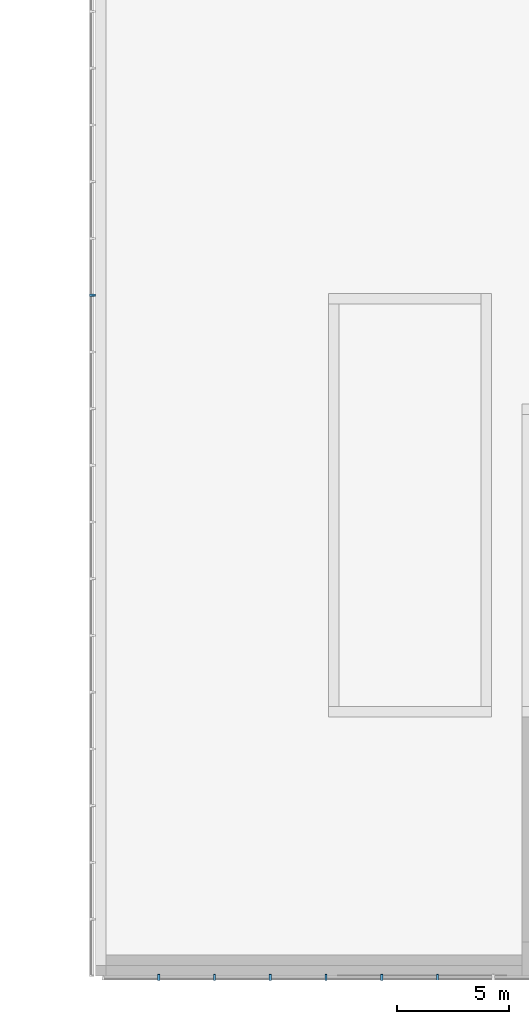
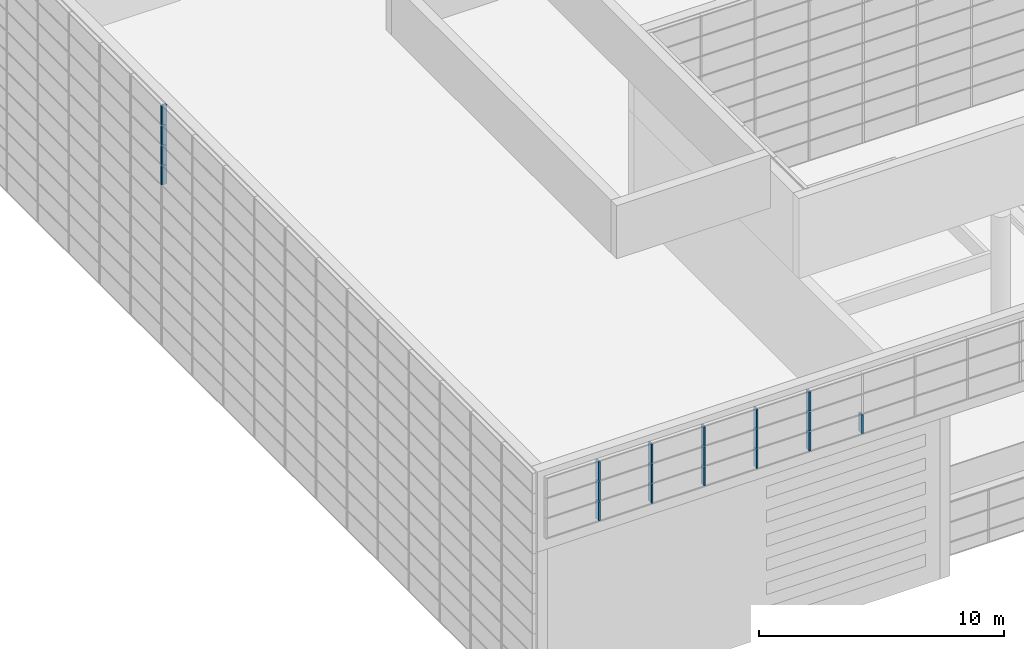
# One storey, part 74 of 105: 20 building element parts, 3 elements without a shape of their own.
"""IFC4 building model written with IfcOpenShell, lengths in millimetres."""

from ifc_helpers import new_model, entity, si_unit, converted_unit, derived_unit, direction, frame, origin_with_axes, place, context, subcontext, project, spatial, triangles, material, element, aggregate, save


model = new_model("IFC4")

# Units and contexts
model_context = context("Model", 3, precision=1e-05, world=origin_with_axes(), true_north=direction((0.0, 1.0)))
body_context = subcontext(model_context, "Body", "Model", "MODEL_VIEW")
ifc_project = project(units=[si_unit("LENGTHUNIT", "METRE", prefix="MILLI"), si_unit("AREAUNIT", "SQUARE_METRE"), si_unit("VOLUMEUNIT", "CUBIC_METRE"), converted_unit("PLANEANGLEUNIT", "DEGREE", entity("IfcLengthMeasure", 0.017453), si_unit("PLANEANGLEUNIT", "RADIAN"), dimensions=[0, 0, 0, 0, 0, 0, 0]), si_unit("SOLIDANGLEUNIT", "STERADIAN"), si_unit("MASSUNIT", "GRAM"), si_unit("TIMEUNIT", "SECOND"), si_unit("THERMODYNAMICTEMPERATUREUNIT", "DEGREE_CELSIUS"), si_unit("LUMINOUSINTENSITYUNIT", "LUMEN"), si_unit("POWERUNIT", "WATT"), derived_unit("THERMALTRANSMITTANCEUNIT", [(si_unit("POWERUNIT", "WATT"), 1), (si_unit("THERMODYNAMICTEMPERATUREUNIT", "KELVIN"), -1), (si_unit("AREAUNIT", "SQUARE_METRE"), -1)])], contexts=[model_context])

# Site, building, storey
site_placement = place(None, origin_with_axes())
site = spatial("IfcSite", under=ifc_project, at=site_placement, Name="Default Site", CompositionType="ELEMENT")
building_placement = place(site_placement, origin_with_axes())
building = spatial("IfcBuilding", under=site, at=building_placement, Name="Default Building", CompositionType="ELEMENT")
storey_placement = place(building_placement, origin_with_axes())
storey = spatial("IfcBuildingStorey", under=building, at=storey_placement, Name="OG - Story", CompositionType="ELEMENT", Elevation=0.0)

# Curtain wall, building element parts
curtain_wall_1_placement = place(storey_placement, origin_with_axes())
curtain_wall_1 = element("IfcCurtainWall", 1, at=curtain_wall_1_placement, inside=storey, Name="Fassade-002", PredefinedType="NOTDEFINED")
ifc_material = material(Name="Blech")
building_element_part_1_placement = place(curtain_wall_1_placement, frame((33339.077852, -52722.262838, 8660.317768), z_axis=(0.0, 0.0, 1.0), x_axis=(1.0, 0.0, 0.0)))
building_element_part_1 = element("IfcBuildingElementPart", 2, at=building_element_part_1_placement, material=ifc_material, Name="Blech", PredefinedType="NOTDEFINED", context=body_context, shape_type="Tessellation", body=[
    triangles([(1281.046, 10.0, 975.0), (1281.046, 200.0, 975.0), (1251.046, 10.0, 975.0), (1231.046, 10.0, 975.0), (1251.046, -9.999, 975.0), (1281.046, -49.999, 975.0), (1281.046, -9.999, 975.0), (1201.046, 200.0, 975.0), (1201.046, 10.0, 975.0), (1231.046, -9.999, 975.0), (1201.046, -9.999, 975.0), (1201.046, -49.999, 975.0), (1251.046, 10.0, 25.0), (1281.046, 10.0, 25.0), (1281.046, 200.0, 25.0), (1201.046, 200.0, 25.0), (1201.046, 10.0, 25.0), (1231.046, 10.0, 25.0), (1231.046, -9.999, 25.0), (1201.046, -9.999, 25.0), (1201.046, -49.999, 25.0), (1281.046, -49.999, 25.0), (1281.046, -9.999, 25.0), (1251.046, -9.999, 25.0)], [[1, 2, 3], [3, 2, 4], [3, 4, 5], [5, 4, 6], [5, 6, 7], [8, 9, 4], [8, 4, 2], [6, 4, 10], [6, 10, 11], [6, 11, 12], [1, 3, 13], [1, 13, 14], [1, 14, 15], [1, 15, 2], [2, 15, 16], [2, 16, 8], [9, 8, 16], [9, 16, 17], [9, 17, 18], [9, 18, 4], [4, 18, 19], [4, 19, 10], [11, 10, 19], [11, 19, 20], [20, 21, 12], [20, 12, 11], [12, 21, 22], [12, 22, 6], [23, 7, 6], [23, 6, 22], [5, 7, 23], [5, 23, 24], [3, 5, 24], [3, 24, 13], [23, 22, 24], [24, 22, 19], [24, 19, 13], [13, 19, 15], [13, 15, 14], [21, 20, 19], [21, 19, 22], [15, 19, 18], [15, 18, 17], [15, 17, 16]], closed=False),
])
building_element_part_2_placement = place(curtain_wall_1_placement, frame((33339.077852, -52722.262838, 8660.317768), z_axis=(0.0, 0.0, 1.0), x_axis=(1.0, 0.0, 0.0)))
building_element_part_2 = element("IfcBuildingElementPart", 3, at=building_element_part_2_placement, material=ifc_material, Name="Blech", PredefinedType="NOTDEFINED", context=body_context, shape_type="Tessellation", body=[
    triangles([(3763.139, 10.0, 975.0), (3763.139, 200.0, 975.0), (3733.139, 10.0, 975.0), (3713.139, 10.0, 975.0), (3733.139, -9.999, 975.0), (3763.139, -49.999, 975.0), (3763.139, -9.999, 975.0), (3683.139, 200.0, 975.0), (3683.139, 10.0, 975.0), (3713.139, -9.999, 975.0), (3683.139, -9.999, 975.0), (3683.139, -49.999, 975.0), (3733.139, 10.0, 25.0), (3763.139, 10.0, 25.0), (3763.139, 200.0, 25.0), (3683.139, 200.0, 25.0), (3683.139, 10.0, 25.0), (3713.139, 10.0, 25.0), (3713.139, -9.999, 25.0), (3683.139, -9.999, 25.0), (3683.139, -49.999, 25.0), (3763.139, -49.999, 25.0), (3763.139, -9.999, 25.0), (3733.139, -9.999, 25.0)], [[1, 2, 3], [3, 2, 4], [3, 4, 5], [5, 4, 6], [5, 6, 7], [8, 9, 4], [8, 4, 2], [6, 4, 10], [6, 10, 11], [6, 11, 12], [1, 3, 13], [1, 13, 14], [1, 14, 15], [1, 15, 2], [2, 15, 16], [2, 16, 8], [9, 8, 16], [9, 16, 17], [9, 17, 18], [9, 18, 4], [4, 18, 19], [4, 19, 10], [11, 10, 19], [11, 19, 20], [20, 21, 12], [20, 12, 11], [12, 21, 22], [12, 22, 6], [23, 7, 6], [23, 6, 22], [5, 7, 23], [5, 23, 24], [3, 5, 24], [3, 24, 13], [23, 22, 24], [24, 22, 19], [24, 19, 13], [13, 19, 15], [13, 15, 14], [21, 20, 19], [21, 19, 22], [15, 19, 18], [15, 18, 17], [15, 17, 16]], closed=False),
])
building_element_part_3_placement = place(curtain_wall_1_placement, frame((33339.077852, -52722.262838, 8660.317768), z_axis=(0.0, 0.0, 1.0), x_axis=(1.0, 0.0, 0.0)))
building_element_part_3 = element("IfcBuildingElementPart", 4, at=building_element_part_3_placement, material=ifc_material, Name="Blech", PredefinedType="NOTDEFINED", context=body_context, shape_type="Tessellation", body=[
    triangles([(6245.232, 10.0, 975.0), (6245.232, 200.0, 975.0), (6215.232, 10.0, 975.0), (6195.232, 10.0, 975.0), (6215.232, -9.999, 975.0), (6245.232, -49.999, 975.0), (6245.232, -9.999, 975.0), (6165.232, 200.0, 975.0), (6165.232, 10.0, 975.0), (6195.232, -9.999, 975.0), (6165.232, -9.999, 975.0), (6165.232, -49.999, 975.0), (6215.232, 10.0, 25.0), (6245.232, 10.0, 25.0), (6245.232, 200.0, 25.0), (6165.232, 200.0, 25.0), (6165.232, 10.0, 25.0), (6195.232, 10.0, 25.0), (6195.232, -9.999, 25.0), (6165.232, -9.999, 25.0), (6165.232, -49.999, 25.0), (6245.232, -49.999, 25.0), (6245.232, -9.999, 25.0), (6215.232, -9.999, 25.0)], [[1, 2, 3], [3, 2, 4], [3, 4, 5], [5, 4, 6], [5, 6, 7], [8, 9, 4], [8, 4, 2], [6, 4, 10], [6, 10, 11], [6, 11, 12], [1, 3, 13], [1, 13, 14], [1, 14, 15], [1, 15, 2], [2, 15, 16], [2, 16, 8], [9, 8, 16], [9, 16, 17], [9, 17, 18], [9, 18, 4], [4, 18, 19], [4, 19, 10], [11, 10, 19], [11, 19, 20], [20, 21, 12], [20, 12, 11], [12, 21, 22], [12, 22, 6], [23, 7, 6], [23, 6, 22], [5, 7, 23], [5, 23, 24], [3, 5, 24], [3, 24, 13], [23, 22, 24], [24, 22, 19], [24, 19, 13], [13, 19, 15], [13, 15, 14], [21, 20, 19], [21, 19, 22], [15, 19, 18], [15, 18, 17], [15, 17, 16]], closed=False),
])
building_element_part_4_placement = place(curtain_wall_1_placement, frame((33339.077852, -52722.262838, 8660.317768), z_axis=(0.0, 0.0, 1.0), x_axis=(1.0, 0.0, 0.0)))
building_element_part_4 = element("IfcBuildingElementPart", 5, at=building_element_part_4_placement, material=ifc_material, Name="Blech", PredefinedType="NOTDEFINED", context=body_context, shape_type="Tessellation", body=[
    triangles([(8727.325, 10.0, 975.0), (8727.325, 200.0, 975.0), (8697.325, 10.0, 975.0), (8677.325, 10.0, 975.0), (8697.325, -9.999, 975.0), (8727.325, -49.999, 975.0), (8727.325, -9.999, 975.0), (8647.325, 200.0, 975.0), (8647.325, 10.0, 975.0), (8677.325, -9.999, 975.0), (8647.325, -9.999, 975.0), (8647.325, -49.999, 975.0), (8697.325, 10.0, 25.0), (8727.325, 10.0, 25.0), (8727.325, 200.0, 25.0), (8647.325, 200.0, 25.0), (8647.325, 10.0, 25.0), (8677.325, 10.0, 25.0), (8677.325, -9.999, 25.0), (8647.325, -9.999, 25.0), (8647.325, -49.999, 25.0), (8727.325, -49.999, 25.0), (8727.325, -9.999, 25.0), (8697.325, -9.999, 25.0)], [[1, 2, 3], [3, 2, 4], [3, 4, 5], [5, 4, 6], [5, 6, 7], [8, 9, 4], [8, 4, 2], [6, 4, 10], [6, 10, 11], [6, 11, 12], [1, 3, 13], [1, 13, 14], [1, 14, 15], [1, 15, 2], [2, 15, 16], [2, 16, 8], [9, 8, 16], [9, 16, 17], [9, 17, 18], [9, 18, 4], [4, 18, 19], [4, 19, 10], [11, 10, 19], [11, 19, 20], [20, 21, 12], [20, 12, 11], [12, 21, 22], [12, 22, 6], [23, 7, 6], [23, 6, 22], [5, 7, 23], [5, 23, 24], [3, 5, 24], [3, 24, 13], [23, 22, 24], [24, 22, 19], [24, 19, 13], [13, 19, 15], [13, 15, 14], [21, 20, 19], [21, 19, 22], [15, 19, 18], [15, 18, 17], [15, 17, 16]], closed=False),
])
building_element_part_5_placement = place(curtain_wall_1_placement, frame((33339.077852, -52722.262838, 8660.317768), z_axis=(0.0, 0.0, 1.0), x_axis=(1.0, 0.0, 0.0)))
building_element_part_5 = element("IfcBuildingElementPart", 6, at=building_element_part_5_placement, material=ifc_material, Name="Blech", PredefinedType="NOTDEFINED", context=body_context, shape_type="Tessellation", body=[
    triangles([(11209.418, 10.0, 975.0), (11209.418, 200.0, 975.0), (11179.418, 10.0, 975.0), (11159.418, 10.0, 975.0), (11179.418, -9.999, 975.0), (11209.418, -49.999, 975.0), (11209.418, -9.999, 975.0), (11129.418, 200.0, 975.0), (11129.418, 10.0, 975.0), (11159.418, -9.999, 975.0), (11129.418, -9.999, 975.0), (11129.418, -49.999, 975.0), (11179.418, 10.0, 25.0), (11209.418, 10.0, 25.0), (11209.418, 200.0, 25.0), (11129.418, 200.0, 25.0), (11129.418, 10.0, 25.0), (11159.418, 10.0, 25.0), (11159.418, -9.999, 25.0), (11129.418, -9.999, 25.0), (11129.418, -49.999, 25.0), (11209.418, -49.999, 25.0), (11209.418, -9.999, 25.0), (11179.418, -9.999, 25.0)], [[1, 2, 3], [3, 2, 4], [3, 4, 5], [5, 4, 6], [5, 6, 7], [8, 9, 4], [8, 4, 2], [6, 4, 10], [6, 10, 11], [6, 11, 12], [1, 3, 13], [1, 13, 14], [1, 14, 15], [1, 15, 2], [2, 15, 16], [2, 16, 8], [9, 8, 16], [9, 16, 17], [9, 17, 18], [9, 18, 4], [4, 18, 19], [4, 19, 10], [11, 10, 19], [11, 19, 20], [20, 21, 12], [20, 12, 11], [12, 21, 22], [12, 22, 6], [23, 7, 6], [23, 6, 22], [5, 7, 23], [5, 23, 24], [3, 5, 24], [3, 24, 13], [23, 22, 24], [24, 22, 19], [24, 19, 13], [13, 19, 15], [13, 15, 14], [21, 20, 19], [21, 19, 22], [15, 19, 18], [15, 18, 17], [15, 17, 16]], closed=False),
])
building_element_part_6_placement = place(curtain_wall_1_placement, frame((33339.077852, -52722.262838, 8660.317768), z_axis=(0.0, 0.0, 1.0), x_axis=(1.0, 0.0, 0.0)))
building_element_part_6 = element("IfcBuildingElementPart", 7, at=building_element_part_6_placement, material=ifc_material, Name="Blech", PredefinedType="NOTDEFINED", context=body_context, shape_type="Tessellation", body=[
    triangles([(13691.511, 10.0, 975.0), (13691.511, 200.0, 975.0), (13661.511, 10.0, 975.0), (13641.511, 10.0, 975.0), (13661.511, -9.999, 975.0), (13691.511, -49.999, 975.0), (13691.511, -9.999, 975.0), (13611.511, 200.0, 975.0), (13611.511, 10.0, 975.0), (13641.511, -9.999, 975.0), (13611.511, -9.999, 975.0), (13611.511, -49.999, 975.0), (13661.511, 10.0, 25.0), (13691.511, 10.0, 25.0), (13691.511, 200.0, 25.0), (13611.511, 200.0, 25.0), (13611.511, 10.0, 25.0), (13641.511, 10.0, 25.0), (13641.511, -9.999, 25.0), (13611.511, -9.999, 25.0), (13611.511, -49.999, 25.0), (13691.511, -49.999, 25.0), (13691.511, -9.999, 25.0), (13661.511, -9.999, 25.0)], [[1, 2, 3], [3, 2, 4], [3, 4, 5], [5, 4, 6], [5, 6, 7], [8, 9, 4], [8, 4, 2], [6, 4, 10], [6, 10, 11], [6, 11, 12], [1, 3, 13], [1, 13, 14], [1, 14, 15], [1, 15, 2], [2, 15, 16], [2, 16, 8], [9, 8, 16], [9, 16, 17], [9, 17, 18], [9, 18, 4], [4, 18, 19], [4, 19, 10], [11, 10, 19], [11, 19, 20], [20, 21, 12], [20, 12, 11], [12, 21, 22], [12, 22, 6], [23, 7, 6], [23, 6, 22], [5, 7, 23], [5, 23, 24], [3, 5, 24], [3, 24, 13], [23, 22, 24], [24, 22, 19], [24, 19, 13], [13, 19, 15], [13, 15, 14], [21, 20, 19], [21, 19, 22], [15, 19, 18], [15, 18, 17], [15, 17, 16]], closed=False),
])
building_element_part_7_placement = place(curtain_wall_1_placement, frame((33339.077852, -52722.262838, 8660.317768), z_axis=(0.0, 0.0, 1.0), x_axis=(1.0, 0.0, 0.0)))
building_element_part_7 = element("IfcBuildingElementPart", 8, at=building_element_part_7_placement, material=ifc_material, Name="Blech", PredefinedType="NOTDEFINED", context=body_context, shape_type="Tessellation", body=[
    triangles([(1281.046, 10.0, 1975.0), (1281.046, 200.0, 1975.0), (1251.046, 10.0, 1975.0), (1231.046, 10.0, 1975.0), (1251.046, -9.999, 1975.0), (1281.046, -49.999, 1975.0), (1281.046, -9.999, 1975.0), (1201.046, 200.0, 1975.0), (1201.046, 10.0, 1975.0), (1231.046, -9.999, 1975.0), (1201.046, -9.999, 1975.0), (1201.046, -49.999, 1975.0), (1251.046, 10.0, 1025.0), (1281.046, 10.0, 1025.0), (1281.046, 200.0, 1025.0), (1201.046, 200.0, 1025.0), (1201.046, 10.0, 1025.0), (1231.046, 10.0, 1025.0), (1231.046, -9.999, 1025.0), (1201.046, -9.999, 1025.0), (1201.046, -49.999, 1025.0), (1281.046, -49.999, 1025.0), (1281.046, -9.999, 1025.0), (1251.046, -9.999, 1025.0)], [[1, 2, 3], [3, 2, 4], [3, 4, 5], [5, 4, 6], [5, 6, 7], [8, 9, 4], [8, 4, 2], [6, 4, 10], [6, 10, 11], [6, 11, 12], [1, 3, 13], [1, 13, 14], [1, 14, 15], [1, 15, 2], [2, 15, 16], [2, 16, 8], [9, 8, 16], [9, 16, 17], [9, 17, 18], [9, 18, 4], [4, 18, 19], [4, 19, 10], [11, 10, 19], [11, 19, 20], [20, 21, 12], [20, 12, 11], [12, 21, 22], [12, 22, 6], [23, 7, 6], [23, 6, 22], [5, 7, 23], [5, 23, 24], [3, 5, 24], [3, 24, 13], [23, 22, 24], [24, 22, 19], [24, 19, 13], [13, 19, 15], [13, 15, 14], [21, 20, 19], [21, 19, 22], [15, 19, 18], [15, 18, 17], [15, 17, 16]], closed=False),
])
building_element_part_8_placement = place(curtain_wall_1_placement, frame((33339.077852, -52722.262838, 8660.317768), z_axis=(0.0, 0.0, 1.0), x_axis=(1.0, 0.0, 0.0)))
building_element_part_8 = element("IfcBuildingElementPart", 9, at=building_element_part_8_placement, material=ifc_material, Name="Blech", PredefinedType="NOTDEFINED", context=body_context, shape_type="Tessellation", body=[
    triangles([(3763.139, 10.0, 1975.0), (3763.139, 200.0, 1975.0), (3733.139, 10.0, 1975.0), (3713.139, 10.0, 1975.0), (3733.139, -9.999, 1975.0), (3763.139, -49.999, 1975.0), (3763.139, -9.999, 1975.0), (3683.139, 200.0, 1975.0), (3683.139, 10.0, 1975.0), (3713.139, -9.999, 1975.0), (3683.139, -9.999, 1975.0), (3683.139, -49.999, 1975.0), (3733.139, 10.0, 1025.0), (3763.139, 10.0, 1025.0), (3763.139, 200.0, 1025.0), (3683.139, 200.0, 1025.0), (3683.139, 10.0, 1025.0), (3713.139, 10.0, 1025.0), (3713.139, -9.999, 1025.0), (3683.139, -9.999, 1025.0), (3683.139, -49.999, 1025.0), (3763.139, -49.999, 1025.0), (3763.139, -9.999, 1025.0), (3733.139, -9.999, 1025.0)], [[1, 2, 3], [3, 2, 4], [3, 4, 5], [5, 4, 6], [5, 6, 7], [8, 9, 4], [8, 4, 2], [6, 4, 10], [6, 10, 11], [6, 11, 12], [1, 3, 13], [1, 13, 14], [1, 14, 15], [1, 15, 2], [2, 15, 16], [2, 16, 8], [9, 8, 16], [9, 16, 17], [9, 17, 18], [9, 18, 4], [4, 18, 19], [4, 19, 10], [11, 10, 19], [11, 19, 20], [20, 21, 12], [20, 12, 11], [12, 21, 22], [12, 22, 6], [23, 7, 6], [23, 6, 22], [5, 7, 23], [5, 23, 24], [3, 5, 24], [3, 24, 13], [23, 22, 24], [24, 22, 19], [24, 19, 13], [13, 19, 15], [13, 15, 14], [21, 20, 19], [21, 19, 22], [15, 19, 18], [15, 18, 17], [15, 17, 16]], closed=False),
])
building_element_part_9_placement = place(curtain_wall_1_placement, frame((33339.077852, -52722.262838, 8660.317768), z_axis=(0.0, 0.0, 1.0), x_axis=(1.0, 0.0, 0.0)))
building_element_part_9 = element("IfcBuildingElementPart", 10, at=building_element_part_9_placement, material=ifc_material, Name="Blech", PredefinedType="NOTDEFINED", context=body_context, shape_type="Tessellation", body=[
    triangles([(6245.232, 10.0, 1975.0), (6245.232, 200.0, 1975.0), (6215.232, 10.0, 1975.0), (6195.232, 10.0, 1975.0), (6215.232, -9.999, 1975.0), (6245.232, -49.999, 1975.0), (6245.232, -9.999, 1975.0), (6165.232, 200.0, 1975.0), (6165.232, 10.0, 1975.0), (6195.232, -9.999, 1975.0), (6165.232, -9.999, 1975.0), (6165.232, -49.999, 1975.0), (6215.232, 10.0, 1025.0), (6245.232, 10.0, 1025.0), (6245.232, 200.0, 1025.0), (6165.232, 200.0, 1025.0), (6165.232, 10.0, 1025.0), (6195.232, 10.0, 1025.0), (6195.232, -9.999, 1025.0), (6165.232, -9.999, 1025.0), (6165.232, -49.999, 1025.0), (6245.232, -49.999, 1025.0), (6245.232, -9.999, 1025.0), (6215.232, -9.999, 1025.0)], [[1, 2, 3], [3, 2, 4], [3, 4, 5], [5, 4, 6], [5, 6, 7], [8, 9, 4], [8, 4, 2], [6, 4, 10], [6, 10, 11], [6, 11, 12], [1, 3, 13], [1, 13, 14], [1, 14, 15], [1, 15, 2], [2, 15, 16], [2, 16, 8], [9, 8, 16], [9, 16, 17], [9, 17, 18], [9, 18, 4], [4, 18, 19], [4, 19, 10], [11, 10, 19], [11, 19, 20], [20, 21, 12], [20, 12, 11], [12, 21, 22], [12, 22, 6], [23, 7, 6], [23, 6, 22], [5, 7, 23], [5, 23, 24], [3, 5, 24], [3, 24, 13], [23, 22, 24], [24, 22, 19], [24, 19, 13], [13, 19, 15], [13, 15, 14], [21, 20, 19], [21, 19, 22], [15, 19, 18], [15, 18, 17], [15, 17, 16]], closed=False),
])
building_element_part_10_placement = place(curtain_wall_1_placement, frame((33339.077852, -52722.262838, 8660.317768), z_axis=(0.0, 0.0, 1.0), x_axis=(1.0, 0.0, 0.0)))
building_element_part_10 = element("IfcBuildingElementPart", 11, at=building_element_part_10_placement, material=ifc_material, Name="Blech", PredefinedType="NOTDEFINED", context=body_context, shape_type="Tessellation", body=[
    triangles([(8727.325, 10.0, 1975.0), (8727.325, 200.0, 1975.0), (8697.325, 10.0, 1975.0), (8677.325, 10.0, 1975.0), (8697.325, -9.999, 1975.0), (8727.325, -49.999, 1975.0), (8727.325, -9.999, 1975.0), (8647.325, 200.0, 1975.0), (8647.325, 10.0, 1975.0), (8677.325, -9.999, 1975.0), (8647.325, -9.999, 1975.0), (8647.325, -49.999, 1975.0), (8697.325, 10.0, 1025.0), (8727.325, 10.0, 1025.0), (8727.325, 200.0, 1025.0), (8647.325, 200.0, 1025.0), (8647.325, 10.0, 1025.0), (8677.325, 10.0, 1025.0), (8677.325, -9.999, 1025.0), (8647.325, -9.999, 1025.0), (8647.325, -49.999, 1025.0), (8727.325, -49.999, 1025.0), (8727.325, -9.999, 1025.0), (8697.325, -9.999, 1025.0)], [[1, 2, 3], [3, 2, 4], [3, 4, 5], [5, 4, 6], [5, 6, 7], [8, 9, 4], [8, 4, 2], [6, 4, 10], [6, 10, 11], [6, 11, 12], [1, 3, 13], [1, 13, 14], [1, 14, 15], [1, 15, 2], [2, 15, 16], [2, 16, 8], [9, 8, 16], [9, 16, 17], [9, 17, 18], [9, 18, 4], [4, 18, 19], [4, 19, 10], [11, 10, 19], [11, 19, 20], [20, 21, 12], [20, 12, 11], [12, 21, 22], [12, 22, 6], [23, 7, 6], [23, 6, 22], [5, 7, 23], [5, 23, 24], [3, 5, 24], [3, 24, 13], [23, 22, 24], [24, 22, 19], [24, 19, 13], [13, 19, 15], [13, 15, 14], [21, 20, 19], [21, 19, 22], [15, 19, 18], [15, 18, 17], [15, 17, 16]], closed=False),
])
building_element_part_11_placement = place(curtain_wall_1_placement, frame((33339.077852, -52722.262838, 8660.317768), z_axis=(0.0, 0.0, 1.0), x_axis=(1.0, 0.0, 0.0)))
building_element_part_11 = element("IfcBuildingElementPart", 12, at=building_element_part_11_placement, material=ifc_material, Name="Blech", PredefinedType="NOTDEFINED", context=body_context, shape_type="Tessellation", body=[
    triangles([(11209.418, 10.0, 1975.0), (11209.418, 200.0, 1975.0), (11179.418, 10.0, 1975.0), (11159.418, 10.0, 1975.0), (11179.418, -9.999, 1975.0), (11209.418, -49.999, 1975.0), (11209.418, -9.999, 1975.0), (11129.418, 200.0, 1975.0), (11129.418, 10.0, 1975.0), (11159.418, -9.999, 1975.0), (11129.418, -9.999, 1975.0), (11129.418, -49.999, 1975.0), (11179.418, 10.0, 1025.0), (11209.418, 10.0, 1025.0), (11209.418, 200.0, 1025.0), (11129.418, 200.0, 1025.0), (11129.418, 10.0, 1025.0), (11159.418, 10.0, 1025.0), (11159.418, -9.999, 1025.0), (11129.418, -9.999, 1025.0), (11129.418, -49.999, 1025.0), (11209.418, -49.999, 1025.0), (11209.418, -9.999, 1025.0), (11179.418, -9.999, 1025.0)], [[1, 2, 3], [3, 2, 4], [3, 4, 5], [5, 4, 6], [5, 6, 7], [8, 9, 4], [8, 4, 2], [6, 4, 10], [6, 10, 11], [6, 11, 12], [1, 3, 13], [1, 13, 14], [1, 14, 15], [1, 15, 2], [2, 15, 16], [2, 16, 8], [9, 8, 16], [9, 16, 17], [9, 17, 18], [9, 18, 4], [4, 18, 19], [4, 19, 10], [11, 10, 19], [11, 19, 20], [20, 21, 12], [20, 12, 11], [12, 21, 22], [12, 22, 6], [23, 7, 6], [23, 6, 22], [5, 7, 23], [5, 23, 24], [3, 5, 24], [3, 24, 13], [23, 22, 24], [24, 22, 19], [24, 19, 13], [13, 19, 15], [13, 15, 14], [21, 20, 19], [21, 19, 22], [15, 19, 18], [15, 18, 17], [15, 17, 16]], closed=False),
])
building_element_part_12_placement = place(curtain_wall_1_placement, frame((33339.077852, -52722.262838, 8660.317768), z_axis=(0.0, 0.0, 1.0), x_axis=(1.0, 0.0, 0.0)))
building_element_part_12 = element("IfcBuildingElementPart", 13, at=building_element_part_12_placement, material=ifc_material, Name="Blech", PredefinedType="NOTDEFINED", context=body_context, shape_type="Tessellation", body=[
    triangles([(1281.046, 10.0, 2975.0), (1281.046, 200.0, 2975.0), (1251.046, 10.0, 2975.0), (1231.046, 10.0, 2975.0), (1251.046, -9.999, 2975.0), (1281.046, -49.999, 2975.0), (1281.046, -9.999, 2975.0), (1201.046, 200.0, 2975.0), (1201.046, 10.0, 2975.0), (1231.046, -9.999, 2975.0), (1201.046, -9.999, 2975.0), (1201.046, -49.999, 2975.0), (1251.046, 10.0, 2025.0), (1281.046, 10.0, 2025.0), (1281.046, 200.0, 2025.0), (1201.046, 200.0, 2025.0), (1201.046, 10.0, 2025.0), (1231.046, 10.0, 2025.0), (1231.046, -9.999, 2025.0), (1201.046, -9.999, 2025.0), (1201.046, -49.999, 2025.0), (1281.046, -49.999, 2025.0), (1281.046, -9.999, 2025.0), (1251.046, -9.999, 2025.0)], [[1, 2, 3], [3, 2, 4], [3, 4, 5], [5, 4, 6], [5, 6, 7], [8, 9, 4], [8, 4, 2], [6, 4, 10], [6, 10, 11], [6, 11, 12], [1, 3, 13], [1, 13, 14], [1, 14, 15], [1, 15, 2], [2, 15, 16], [2, 16, 8], [9, 8, 16], [9, 16, 17], [9, 17, 18], [9, 18, 4], [4, 18, 19], [4, 19, 10], [11, 10, 19], [11, 19, 20], [20, 21, 12], [20, 12, 11], [12, 21, 22], [12, 22, 6], [23, 7, 6], [23, 6, 22], [5, 7, 23], [5, 23, 24], [3, 5, 24], [3, 24, 13], [23, 22, 24], [24, 22, 19], [24, 19, 13], [13, 19, 15], [13, 15, 14], [21, 20, 19], [21, 19, 22], [15, 19, 18], [15, 18, 17], [15, 17, 16]], closed=False),
])
building_element_part_13_placement = place(curtain_wall_1_placement, frame((33339.077852, -52722.262838, 8660.317768), z_axis=(0.0, 0.0, 1.0), x_axis=(1.0, 0.0, 0.0)))
building_element_part_13 = element("IfcBuildingElementPart", 14, at=building_element_part_13_placement, material=ifc_material, Name="Blech", PredefinedType="NOTDEFINED", context=body_context, shape_type="Tessellation", body=[
    triangles([(3763.139, 10.0, 2975.0), (3763.139, 200.0, 2975.0), (3733.139, 10.0, 2975.0), (3713.139, 10.0, 2975.0), (3733.139, -9.999, 2975.0), (3763.139, -49.999, 2975.0), (3763.139, -9.999, 2975.0), (3683.139, 200.0, 2975.0), (3683.139, 10.0, 2975.0), (3713.139, -9.999, 2975.0), (3683.139, -9.999, 2975.0), (3683.139, -49.999, 2975.0), (3733.139, 10.0, 2025.0), (3763.139, 10.0, 2025.0), (3763.139, 200.0, 2025.0), (3683.139, 200.0, 2025.0), (3683.139, 10.0, 2025.0), (3713.139, 10.0, 2025.0), (3713.139, -9.999, 2025.0), (3683.139, -9.999, 2025.0), (3683.139, -49.999, 2025.0), (3763.139, -49.999, 2025.0), (3763.139, -9.999, 2025.0), (3733.139, -9.999, 2025.0)], [[1, 2, 3], [3, 2, 4], [3, 4, 5], [5, 4, 6], [5, 6, 7], [8, 9, 4], [8, 4, 2], [6, 4, 10], [6, 10, 11], [6, 11, 12], [1, 3, 13], [1, 13, 14], [1, 14, 15], [1, 15, 2], [2, 15, 16], [2, 16, 8], [9, 8, 16], [9, 16, 17], [9, 17, 18], [9, 18, 4], [4, 18, 19], [4, 19, 10], [11, 10, 19], [11, 19, 20], [20, 21, 12], [20, 12, 11], [12, 21, 22], [12, 22, 6], [23, 7, 6], [23, 6, 22], [5, 7, 23], [5, 23, 24], [3, 5, 24], [3, 24, 13], [23, 22, 24], [24, 22, 19], [24, 19, 13], [13, 19, 15], [13, 15, 14], [21, 20, 19], [21, 19, 22], [15, 19, 18], [15, 18, 17], [15, 17, 16]], closed=False),
])
building_element_part_14_placement = place(curtain_wall_1_placement, frame((33339.077852, -52722.262838, 8660.317768), z_axis=(0.0, 0.0, 1.0), x_axis=(1.0, 0.0, 0.0)))
building_element_part_14 = element("IfcBuildingElementPart", 15, at=building_element_part_14_placement, material=ifc_material, Name="Blech", PredefinedType="NOTDEFINED", context=body_context, shape_type="Tessellation", body=[
    triangles([(6245.232, 10.0, 2975.0), (6245.232, 200.0, 2975.0), (6215.232, 10.0, 2975.0), (6195.232, 10.0, 2975.0), (6215.232, -9.999, 2975.0), (6245.232, -49.999, 2975.0), (6245.232, -9.999, 2975.0), (6165.232, 200.0, 2975.0), (6165.232, 10.0, 2975.0), (6195.232, -9.999, 2975.0), (6165.232, -9.999, 2975.0), (6165.232, -49.999, 2975.0), (6215.232, 10.0, 2025.0), (6245.232, 10.0, 2025.0), (6245.232, 200.0, 2025.0), (6165.232, 200.0, 2025.0), (6165.232, 10.0, 2025.0), (6195.232, 10.0, 2025.0), (6195.232, -9.999, 2025.0), (6165.232, -9.999, 2025.0), (6165.232, -49.999, 2025.0), (6245.232, -49.999, 2025.0), (6245.232, -9.999, 2025.0), (6215.232, -9.999, 2025.0)], [[1, 2, 3], [3, 2, 4], [3, 4, 5], [5, 4, 6], [5, 6, 7], [8, 9, 4], [8, 4, 2], [6, 4, 10], [6, 10, 11], [6, 11, 12], [1, 3, 13], [1, 13, 14], [1, 14, 15], [1, 15, 2], [2, 15, 16], [2, 16, 8], [9, 8, 16], [9, 16, 17], [9, 17, 18], [9, 18, 4], [4, 18, 19], [4, 19, 10], [11, 10, 19], [11, 19, 20], [20, 21, 12], [20, 12, 11], [12, 21, 22], [12, 22, 6], [23, 7, 6], [23, 6, 22], [5, 7, 23], [5, 23, 24], [3, 5, 24], [3, 24, 13], [23, 22, 24], [24, 22, 19], [24, 19, 13], [13, 19, 15], [13, 15, 14], [21, 20, 19], [21, 19, 22], [15, 19, 18], [15, 18, 17], [15, 17, 16]], closed=False),
])
building_element_part_15_placement = place(curtain_wall_1_placement, frame((33339.077852, -52722.262838, 8660.317768), z_axis=(0.0, 0.0, 1.0), x_axis=(1.0, 0.0, 0.0)))
building_element_part_15 = element("IfcBuildingElementPart", 16, at=building_element_part_15_placement, material=ifc_material, Name="Blech", PredefinedType="NOTDEFINED", context=body_context, shape_type="Tessellation", body=[
    triangles([(8727.325, 10.0, 2975.0), (8727.325, 200.0, 2975.0), (8697.325, 10.0, 2975.0), (8677.325, 10.0, 2975.0), (8697.325, -9.999, 2975.0), (8727.325, -49.999, 2975.0), (8727.325, -9.999, 2975.0), (8647.325, 200.0, 2975.0), (8647.325, 10.0, 2975.0), (8677.325, -9.999, 2975.0), (8647.325, -9.999, 2975.0), (8647.325, -49.999, 2975.0), (8697.325, 10.0, 2025.0), (8727.325, 10.0, 2025.0), (8727.325, 200.0, 2025.0), (8647.325, 200.0, 2025.0), (8647.325, 10.0, 2025.0), (8677.325, 10.0, 2025.0), (8677.325, -9.999, 2025.0), (8647.325, -9.999, 2025.0), (8647.325, -49.999, 2025.0), (8727.325, -49.999, 2025.0), (8727.325, -9.999, 2025.0), (8697.325, -9.999, 2025.0)], [[1, 2, 3], [3, 2, 4], [3, 4, 5], [5, 4, 6], [5, 6, 7], [8, 9, 4], [8, 4, 2], [6, 4, 10], [6, 10, 11], [6, 11, 12], [1, 3, 13], [1, 13, 14], [1, 14, 15], [1, 15, 2], [2, 15, 16], [2, 16, 8], [9, 8, 16], [9, 16, 17], [9, 17, 18], [9, 18, 4], [4, 18, 19], [4, 19, 10], [11, 10, 19], [11, 19, 20], [20, 21, 12], [20, 12, 11], [12, 21, 22], [12, 22, 6], [23, 7, 6], [23, 6, 22], [5, 7, 23], [5, 23, 24], [3, 5, 24], [3, 24, 13], [23, 22, 24], [24, 22, 19], [24, 19, 13], [13, 19, 15], [13, 15, 14], [21, 20, 19], [21, 19, 22], [15, 19, 18], [15, 18, 17], [15, 17, 16]], closed=False),
])
building_element_part_16_placement = place(curtain_wall_1_placement, frame((33339.077852, -52722.262838, 8660.317768), z_axis=(0.0, 0.0, 1.0), x_axis=(1.0, 0.0, 0.0)))
building_element_part_16 = element("IfcBuildingElementPart", 17, at=building_element_part_16_placement, material=ifc_material, Name="Blech", PredefinedType="NOTDEFINED", context=body_context, shape_type="Tessellation", body=[
    triangles([(11209.418, 10.0, 2975.0), (11209.418, 200.0, 2975.0), (11179.418, 10.0, 2975.0), (11159.418, 10.0, 2975.0), (11179.418, -9.999, 2975.0), (11209.418, -49.999, 2975.0), (11209.418, -9.999, 2975.0), (11129.418, 200.0, 2975.0), (11129.418, 10.0, 2975.0), (11159.418, -9.999, 2975.0), (11129.418, -9.999, 2975.0), (11129.418, -49.999, 2975.0), (11179.418, 10.0, 2025.0), (11209.418, 10.0, 2025.0), (11209.418, 200.0, 2025.0), (11129.418, 200.0, 2025.0), (11129.418, 10.0, 2025.0), (11159.418, 10.0, 2025.0), (11159.418, -9.999, 2025.0), (11129.418, -9.999, 2025.0), (11129.418, -49.999, 2025.0), (11209.418, -49.999, 2025.0), (11209.418, -9.999, 2025.0), (11179.418, -9.999, 2025.0)], [[1, 2, 3], [3, 2, 4], [3, 4, 5], [5, 4, 6], [5, 6, 7], [8, 9, 4], [8, 4, 2], [6, 4, 10], [6, 10, 11], [6, 11, 12], [1, 3, 13], [1, 13, 14], [1, 14, 15], [1, 15, 2], [2, 15, 16], [2, 16, 8], [9, 8, 16], [9, 16, 17], [9, 17, 18], [9, 18, 4], [4, 18, 19], [4, 19, 10], [11, 10, 19], [11, 19, 20], [20, 21, 12], [20, 12, 11], [12, 21, 22], [12, 22, 6], [23, 7, 6], [23, 6, 22], [5, 7, 23], [5, 23, 24], [3, 5, 24], [3, 24, 13], [23, 22, 24], [24, 22, 19], [24, 19, 13], [13, 19, 15], [13, 15, 14], [21, 20, 19], [21, 19, 22], [15, 19, 18], [15, 18, 17], [15, 17, 16]], closed=False),
])
aggregate(curtain_wall_1, [building_element_part_1, building_element_part_2, building_element_part_3, building_element_part_4, building_element_part_5, building_element_part_6, building_element_part_7, building_element_part_8, building_element_part_9, building_element_part_10, building_element_part_11, building_element_part_12, building_element_part_13, building_element_part_14, building_element_part_15, building_element_part_16])

# Curtain wall, building element part
curtain_wall_2_placement = place(storey_placement, origin_with_axes())
curtain_wall_2 = element("IfcCurtainWall", 18, at=curtain_wall_2_placement, inside=storey, Name="Fassade-003", PredefinedType="NOTDEFINED")
building_element_part_17_placement = place(curtain_wall_2_placement, frame((31551.391327, -51326.104944, 6000.0), z_axis=(0.0, 0.0, 1.0), x_axis=(1.0, 0.0, 0.0)))
building_element_part_17 = element("IfcBuildingElementPart", 19, at=building_element_part_17_placement, material=ifc_material, Name="Blech", PredefinedType="NOTDEFINED", context=body_context, shape_type="Tessellation", body=[
    triangles([(200.0, 29012.632, 2975.0), (10.0, 29012.632, 2975.0), (200.0, 29092.632, 2975.0), (10.0, 29042.632, 2975.0), (10.0, 29062.632, 2975.0), (-9.999, 29042.632, 2975.0), (-9.999, 29062.632, 2975.0), (-9.999, 29092.632, 2975.0), (-9.999, 29012.632, 2975.0), (-49.999, 29012.632, 2975.0), (-49.999, 29092.632, 2975.0), (10.0, 29092.632, 2975.0), (10.0, 29062.632, 2025.0), (-9.999, 29062.632, 2025.0), (-9.999, 29092.632, 2025.0), (-49.999, 29092.632, 2025.0), (-49.999, 29012.632, 2025.0), (-9.999, 29012.632, 2025.0), (-9.999, 29042.632, 2025.0), (10.0, 29042.632, 2025.0), (10.0, 29012.632, 2025.0), (200.0, 29012.632, 2025.0), (200.0, 29092.632, 2025.0), (10.0, 29092.632, 2025.0)], [[1, 2, 3], [3, 2, 4], [3, 4, 5], [5, 4, 6], [5, 6, 7], [8, 9, 10], [8, 10, 11], [3, 5, 12], [5, 13, 14], [5, 14, 7], [7, 14, 15], [7, 15, 8], [15, 16, 11], [15, 11, 8], [10, 11, 16], [10, 16, 17], [18, 9, 10], [18, 10, 17], [9, 18, 19], [9, 19, 6], [4, 6, 19], [4, 19, 20], [2, 4, 20], [2, 20, 21], [2, 21, 22], [2, 22, 1], [3, 1, 22], [3, 22, 23], [12, 3, 23], [12, 23, 24], [12, 24, 13], [12, 13, 5], [23, 24, 22], [22, 24, 13], [22, 13, 20], [20, 13, 14], [20, 14, 19], [18, 15, 16], [18, 16, 17], [22, 20, 21]], closed=False),
])
aggregate(curtain_wall_2, [building_element_part_17])

# Curtain wall, building element parts
curtain_wall_3_placement = place(storey_placement, origin_with_axes())
curtain_wall_3 = element("IfcCurtainWall", 20, at=curtain_wall_3_placement, inside=storey, Name="Fassade-003", PredefinedType="NOTDEFINED")
building_element_part_18_placement = place(curtain_wall_3_placement, frame((31551.391327, -51326.104944, 9000.0), z_axis=(0.0, 0.0, 1.0), x_axis=(1.0, 0.0, 0.0)))
building_element_part_18 = element("IfcBuildingElementPart", 21, at=building_element_part_18_placement, material=ifc_material, Name="Blech", PredefinedType="NOTDEFINED", context=body_context, shape_type="Tessellation", body=[
    triangles([(200.0, 29012.632, 975.0), (10.0, 29012.632, 975.0), (200.0, 29092.632, 975.0), (10.0, 29042.632, 975.0), (10.0, 29062.632, 975.0), (-9.999, 29042.632, 975.0), (-9.999, 29062.632, 975.0), (-9.999, 29092.632, 975.0), (-9.999, 29012.632, 975.0), (-49.999, 29012.632, 975.0), (-49.999, 29092.632, 975.0), (10.0, 29092.632, 975.0), (10.0, 29062.632, 25.0), (-9.999, 29062.632, 25.0), (-9.999, 29092.632, 25.0), (-49.999, 29092.632, 25.0), (-49.999, 29012.632, 25.0), (-9.999, 29012.632, 25.0), (-9.999, 29042.632, 25.0), (10.0, 29042.632, 25.0), (10.0, 29012.632, 25.0), (200.0, 29012.632, 25.0), (200.0, 29092.632, 25.0), (10.0, 29092.632, 25.0)], [[1, 2, 3], [3, 2, 4], [3, 4, 5], [5, 4, 6], [5, 6, 7], [8, 9, 10], [8, 10, 11], [3, 5, 12], [5, 13, 14], [5, 14, 7], [7, 14, 15], [7, 15, 8], [15, 16, 11], [15, 11, 8], [10, 11, 16], [10, 16, 17], [18, 9, 10], [18, 10, 17], [9, 18, 19], [9, 19, 6], [4, 6, 19], [4, 19, 20], [2, 4, 20], [2, 20, 21], [2, 21, 22], [2, 22, 1], [3, 1, 22], [3, 22, 23], [12, 3, 23], [12, 23, 24], [12, 24, 13], [12, 13, 5], [23, 24, 22], [22, 24, 13], [22, 13, 20], [20, 13, 14], [20, 14, 19], [18, 15, 16], [18, 16, 17], [22, 20, 21]], closed=False),
])
building_element_part_19_placement = place(curtain_wall_3_placement, frame((31551.391327, -51326.104944, 9000.0), z_axis=(0.0, 0.0, 1.0), x_axis=(1.0, 0.0, 0.0)))
building_element_part_19 = element("IfcBuildingElementPart", 22, at=building_element_part_19_placement, material=ifc_material, Name="Blech", PredefinedType="NOTDEFINED", context=body_context, shape_type="Tessellation", body=[
    triangles([(200.0, 29012.632, 1975.0), (10.0, 29012.632, 1975.0), (200.0, 29092.632, 1975.0), (10.0, 29042.632, 1975.0), (10.0, 29062.632, 1975.0), (-9.999, 29042.632, 1975.0), (-9.999, 29062.632, 1975.0), (-9.999, 29092.632, 1975.0), (-9.999, 29012.632, 1975.0), (-49.999, 29012.632, 1975.0), (-49.999, 29092.632, 1975.0), (10.0, 29092.632, 1975.0), (10.0, 29062.632, 1025.0), (-9.999, 29062.632, 1025.0), (-9.999, 29092.632, 1025.0), (-49.999, 29092.632, 1025.0), (-49.999, 29012.632, 1025.0), (-9.999, 29012.632, 1025.0), (-9.999, 29042.632, 1025.0), (10.0, 29042.632, 1025.0), (10.0, 29012.632, 1025.0), (200.0, 29012.632, 1025.0), (200.0, 29092.632, 1025.0), (10.0, 29092.632, 1025.0)], [[1, 2, 3], [3, 2, 4], [3, 4, 5], [5, 4, 6], [5, 6, 7], [8, 9, 10], [8, 10, 11], [3, 5, 12], [5, 13, 14], [5, 14, 7], [7, 14, 15], [7, 15, 8], [15, 16, 11], [15, 11, 8], [10, 11, 16], [10, 16, 17], [18, 9, 10], [18, 10, 17], [9, 18, 19], [9, 19, 6], [4, 6, 19], [4, 19, 20], [2, 4, 20], [2, 20, 21], [2, 21, 22], [2, 22, 1], [3, 1, 22], [3, 22, 23], [12, 3, 23], [12, 23, 24], [12, 24, 13], [12, 13, 5], [23, 24, 22], [22, 24, 13], [22, 13, 20], [20, 13, 14], [20, 14, 19], [18, 15, 16], [18, 16, 17], [22, 20, 21]], closed=False),
])
building_element_part_20_placement = place(curtain_wall_3_placement, frame((31551.391327, -51326.104944, 9000.0), z_axis=(0.0, 0.0, 1.0), x_axis=(1.0, 0.0, 0.0)))
building_element_part_20 = element("IfcBuildingElementPart", 23, at=building_element_part_20_placement, material=ifc_material, Name="Blech", PredefinedType="NOTDEFINED", context=body_context, shape_type="Tessellation", body=[
    triangles([(200.0, 29012.632, 2975.0), (10.0, 29012.632, 2975.0), (200.0, 29092.632, 2975.0), (10.0, 29042.632, 2975.0), (10.0, 29062.632, 2975.0), (-9.999, 29042.632, 2975.0), (-9.999, 29062.632, 2975.0), (-9.999, 29092.632, 2975.0), (-9.999, 29012.632, 2975.0), (-49.999, 29012.632, 2975.0), (-49.999, 29092.632, 2975.0), (10.0, 29092.632, 2975.0), (10.0, 29062.632, 2025.0), (-9.999, 29062.632, 2025.0), (-9.999, 29092.632, 2025.0), (-49.999, 29092.632, 2025.0), (-49.999, 29012.632, 2025.0), (-9.999, 29012.632, 2025.0), (-9.999, 29042.632, 2025.0), (10.0, 29042.632, 2025.0), (10.0, 29012.632, 2025.0), (200.0, 29012.632, 2025.0), (200.0, 29092.632, 2025.0), (10.0, 29092.632, 2025.0)], [[1, 2, 3], [3, 2, 4], [3, 4, 5], [5, 4, 6], [5, 6, 7], [8, 9, 10], [8, 10, 11], [3, 5, 12], [5, 13, 14], [5, 14, 7], [7, 14, 15], [7, 15, 8], [15, 16, 11], [15, 11, 8], [10, 11, 16], [10, 16, 17], [18, 9, 10], [18, 10, 17], [9, 18, 19], [9, 19, 6], [4, 6, 19], [4, 19, 20], [2, 4, 20], [2, 20, 21], [2, 21, 22], [2, 22, 1], [3, 1, 22], [3, 22, 23], [12, 3, 23], [12, 23, 24], [12, 24, 13], [12, 13, 5], [23, 24, 22], [22, 24, 13], [22, 13, 20], [20, 13, 14], [20, 14, 19], [18, 15, 16], [18, 16, 17], [22, 20, 21]], closed=False),
])
aggregate(curtain_wall_3, [building_element_part_18, building_element_part_19, building_element_part_20])

save(model, "model.ifc")
